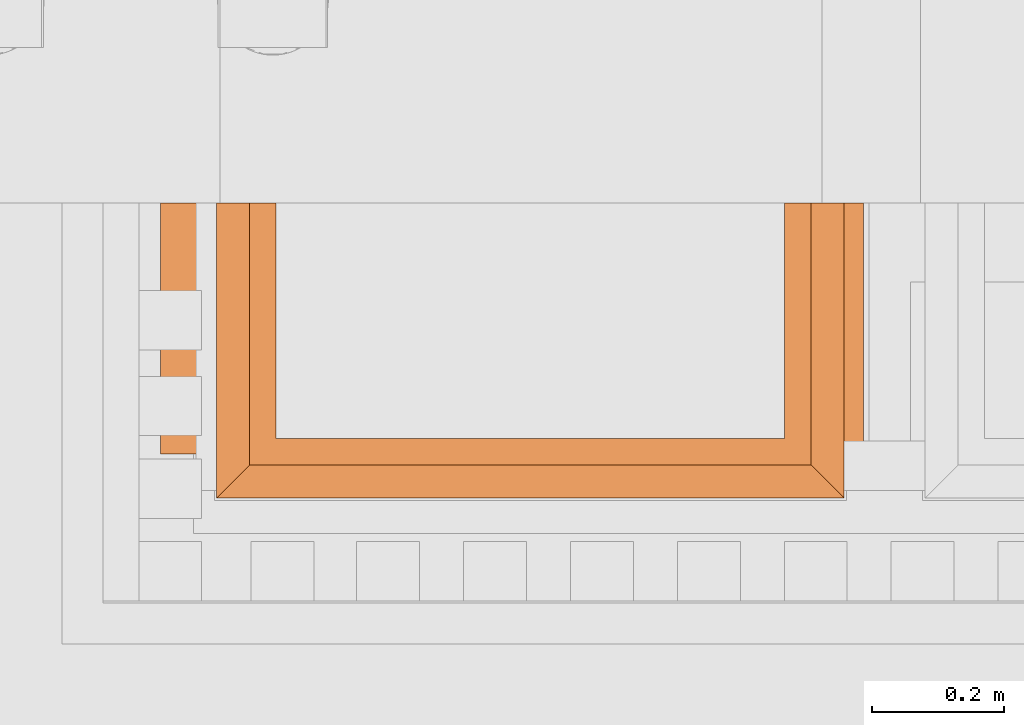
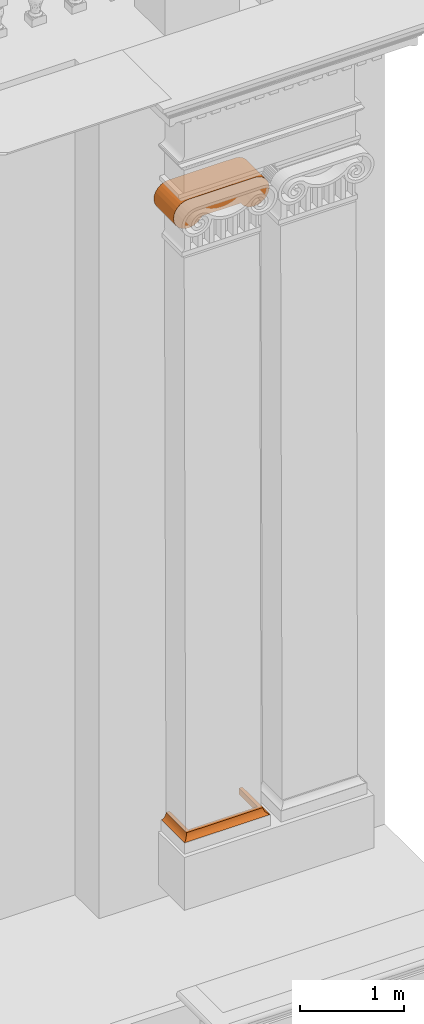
# One storey, part 41 of 44: 2 proxies.
"""IFC2X3 building model written with IfcOpenShell, lengths in metres."""

from ifc_helpers import new_model, entity, si_unit, converted_unit, derived_unit, direction, frame, origin, place, context, subcontext, project, spatial, faceted_brep, material, element, save


model = new_model("IFC2X3")

# Units and contexts
model_context = context("Model", 3, precision=1e-05, world=origin(), true_north=direction((6.12303176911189e-17, 1.0)))
body_context = subcontext(model_context, "Body", "Model", "MODEL_VIEW")
ifc_project = project(units=[si_unit("LENGTHUNIT", "METRE"), si_unit("AREAUNIT", "SQUARE_METRE"), si_unit("VOLUMEUNIT", "CUBIC_METRE"), converted_unit("PLANEANGLEUNIT", "DEGREE", entity("IfcRatioMeasure", 0.0174532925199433), si_unit("PLANEANGLEUNIT", "RADIAN"), dimensions=[0, 0, 0, 0, 0, 0, 0]), si_unit("MASSUNIT", "GRAM", prefix="KILO"), derived_unit("MASSDENSITYUNIT", [(si_unit("MASSUNIT", "GRAM", prefix="KILO"), 1), (si_unit("LENGTHUNIT", "METRE"), -3)]), si_unit("TIMEUNIT", "SECOND"), si_unit("FREQUENCYUNIT", "HERTZ"), si_unit("THERMODYNAMICTEMPERATUREUNIT", "DEGREE_CELSIUS"), derived_unit("THERMALTRANSMITTANCEUNIT", [(si_unit("MASSUNIT", "GRAM", prefix="KILO"), 1), (si_unit("THERMODYNAMICTEMPERATUREUNIT", "KELVIN"), -1), (si_unit("TIMEUNIT", "SECOND"), -3)]), derived_unit("VOLUMETRICFLOWRATEUNIT", [(si_unit("LENGTHUNIT", "METRE"), 3), (si_unit("TIMEUNIT", "SECOND"), -1)]), si_unit("ELECTRICCURRENTUNIT", "AMPERE"), si_unit("ELECTRICVOLTAGEUNIT", "VOLT"), si_unit("POWERUNIT", "WATT"), si_unit("FORCEUNIT", "NEWTON", prefix="KILO"), si_unit("ILLUMINANCEUNIT", "LUX"), si_unit("LUMINOUSFLUXUNIT", "LUMEN"), si_unit("LUMINOUSINTENSITYUNIT", "CANDELA"), derived_unit("USERDEFINED", [(si_unit("MASSUNIT", "GRAM", prefix="KILO"), -1), (si_unit("LENGTHUNIT", "METRE"), -2), (si_unit("TIMEUNIT", "SECOND"), 3), (si_unit("LUMINOUSFLUXUNIT", "LUMEN"), 1)]), derived_unit("LINEARVELOCITYUNIT", [(si_unit("LENGTHUNIT", "METRE"), 1), (si_unit("TIMEUNIT", "SECOND"), -1)]), si_unit("PRESSUREUNIT", "PASCAL"), derived_unit("USERDEFINED", [(si_unit("LENGTHUNIT", "METRE"), -2), (si_unit("MASSUNIT", "GRAM", prefix="KILO"), 1), (si_unit("TIMEUNIT", "SECOND"), -2)])], contexts=[model_context])

# Site, building, storey
site_placement = place(None, origin())
site = spatial("IfcSite", under=ifc_project, at=site_placement, Name="Default", CompositionType="ELEMENT")
building_placement = place(site_placement, origin())
building = spatial("IfcBuilding", under=site, at=building_placement, CompositionType="ELEMENT")
storey_placement = place(building_placement, origin())
storey = spatial("IfcBuildingStorey", under=building, at=storey_placement, Name="Livello 1", CompositionType="ELEMENT", Elevation=0.0)

# Proxies
ifc_material = material(Name="Travertino")
proxy_1_placement = place(storey_placement, frame((9.34571776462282, 0.883372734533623, 21.2883884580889)))
element("IfcBuildingElementProxy", 1, at=proxy_1_placement, inside=storey, material=ifc_material, Name="Stratigrafia", context=body_context, shape_type="Brep", body=[
    faceted_brep([(0.227068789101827, 0.13, 0.0156237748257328), (0.228992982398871, 0.13, 0.0157417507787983), (0.230920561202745, 0.13, 0.0157713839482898), (0.23276441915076, 0.13, 0.0157169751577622), (0.234604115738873, 0.13, 0.0155817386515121), (0.235377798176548, 0.13, 0.0155005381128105), (0.236149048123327, 0.13, 0.0154051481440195), (0.219471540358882, 0.13, 0.00918128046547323), (0.202228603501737, 0.13, 0.00475895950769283), (0.202441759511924, 0.13, 0.00495230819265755), (0.202656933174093, 0.13, 0.00514482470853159), (0.205538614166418, 0.13, 0.00748647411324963), (0.208615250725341, 0.13, 0.00956534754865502), (0.21130606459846, 0.13, 0.0110826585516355), (0.214100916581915, 0.13, 0.0123985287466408), (0.21684041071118, 0.13, 0.0134560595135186), (0.219647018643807, 0.13, 0.0143198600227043), (0.221437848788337, 0.13, 0.0147613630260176), (0.223246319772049, 0.13, 0.015123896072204), (0.225151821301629, 0.13, 0.0154176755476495), (0.202441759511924, 0.195, 0.00495230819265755), (0.202228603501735, 0.195, 0.00475895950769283), (0.219471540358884, 0.195, 0.00918128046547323), (0.236149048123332, 0.195, 0.0154051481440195), (0.235377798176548, 0.195, 0.0155005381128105), (0.234604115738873, 0.195, 0.0155817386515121), (0.23276441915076, 0.195, 0.0157169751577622), (0.230920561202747, 0.195, 0.0157713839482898), (0.228992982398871, 0.195, 0.0157417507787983), (0.227068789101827, 0.195, 0.0156237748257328), (0.225151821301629, 0.195, 0.0154176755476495), (0.223246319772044, 0.195, 0.015123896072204), (0.221437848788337, 0.195, 0.0147613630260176), (0.219647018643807, 0.195, 0.0143198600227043), (0.21684041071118, 0.195, 0.0134560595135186), (0.214100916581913, 0.195, 0.0123985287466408), (0.21130606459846, 0.195, 0.0110826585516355), (0.208615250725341, 0.195, 0.00956534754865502), (0.205538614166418, 0.195, 0.00748647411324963), (0.202656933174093, 0.195, 0.00514482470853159), (0.235311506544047, 0.14769119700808, 0.015508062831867), (0.234604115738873, 0.15122943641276, 0.0155817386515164), (0.235350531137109, 0.153479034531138, 0.0155036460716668), (0.235306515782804, 0.158497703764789, 0.0155086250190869), (0.23614904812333, 0.1625, 0.0154051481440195), (0.236149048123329, 0.1584375, 0.0154051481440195), (0.236149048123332, 0.154375, 0.0154051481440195), (0.236149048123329, 0.187923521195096, 0.0154051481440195), (0.235377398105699, 0.184385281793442, 0.0155005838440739), (0.235447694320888, 0.189692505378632, 0.0154924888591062), (0.235285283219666, 0.163523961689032, 0.0155110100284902), (0.234604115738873, 0.16747943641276, 0.0155817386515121), (0.235367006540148, 0.169772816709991, 0.0155017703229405), (0.234604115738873, 0.187923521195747, 0.0155817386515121), (0.236149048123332, 0.14625, 0.0154051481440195), (0.235377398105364, 0.140614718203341, 0.0155005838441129), (0.234604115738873, 0.144152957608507, 0.0155817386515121), (0.234604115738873, 0.137076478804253, 0.0155817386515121), (0.234604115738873, 0.182288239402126, 0.0155817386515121), (0.235392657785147, 0.17846167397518, 0.015498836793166), (0.234604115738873, 0.172066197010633, 0.0155817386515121), (0.236149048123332, 0.137076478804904, 0.0154051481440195), (0.235307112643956, 0.135307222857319, 0.0155085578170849), (0.23614904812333, 0.180847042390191, 0.0154051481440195), (0.234604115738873, 0.176652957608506, 0.0155817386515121), (0.234604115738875, 0.18084967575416, 0.0155817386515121), (0.236149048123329, 0.171673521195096, 0.0154051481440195), (0.234604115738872, 0.158305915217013, 0.0155817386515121), (0.234604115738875, 0.1625, 0.0155817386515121), (0.232764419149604, 0.151225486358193, 0.0157169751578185), (0.232651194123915, 0.1654432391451, 0.0157226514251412), (0.230920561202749, 0.158300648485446, 0.0157713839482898), (0.230920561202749, 0.144150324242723, 0.0157713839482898), (0.23276441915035, 0.181836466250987, 0.0157169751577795), (0.230920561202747, 0.180849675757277, 0.0157713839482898), (0.230920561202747, 0.1625, 0.0157713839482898), (0.22899298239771, 0.151224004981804, 0.015741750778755), (0.228865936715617, 0.166307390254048, 0.0157366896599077), (0.227068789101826, 0.158298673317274, 0.0156237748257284), (0.227068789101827, 0.144149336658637, 0.0156237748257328), (0.228992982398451, 0.181275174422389, 0.015741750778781), (0.227068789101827, 0.180850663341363, 0.0156237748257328), (0.227068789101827, 0.1625, 0.0156237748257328), (0.225151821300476, 0.151224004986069, 0.0154176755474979), (0.225025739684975, 0.16630961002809, 0.0154009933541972), (0.223246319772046, 0.15829867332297, 0.015123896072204), (0.223246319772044, 0.144149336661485, 0.015123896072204), (0.225151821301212, 0.181273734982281, 0.0154176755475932), (0.223246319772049, 0.180850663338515, 0.015123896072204), (0.223246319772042, 0.1625, 0.015123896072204), (0.221437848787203, 0.15122548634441, 0.014761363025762), (0.221327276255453, 0.165441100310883, 0.0147365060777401), (0.219647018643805, 0.158300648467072, 0.0143198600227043), (0.219647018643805, 0.144150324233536, 0.0143198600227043), (0.221437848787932, 0.181837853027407, 0.0147613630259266), (0.219647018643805, 0.180849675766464, 0.0143198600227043), (0.219647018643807, 0.1625, 0.0143198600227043), (0.217295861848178, 0.150768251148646, 0.0136109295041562), (0.216694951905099, 0.171325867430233, 0.0134053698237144), (0.214100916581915, 0.158305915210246, 0.0123985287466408), (0.214100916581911, 0.166683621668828, 0.0123985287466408), (0.211427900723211, 0.154345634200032, 0.0111453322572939), (0.210711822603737, 0.174546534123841, 0.0107697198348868), (0.208615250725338, 0.1625, 0.00956534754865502), (0.208615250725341, 0.166667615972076, 0.00956534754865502), (0.202656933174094, 0.158332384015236, 0.00514482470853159), (0.202656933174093, 0.16046875, 0.00514482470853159), (0.202656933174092, 0.1625, 0.00514482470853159), (0.202656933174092, 0.164790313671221, 0.00514482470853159), (0.202656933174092, 0.167080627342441, 0.00514482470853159), (0.202656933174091, 0.169370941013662, 0.00514482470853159), (0.202656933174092, 0.171661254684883, 0.00514482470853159), (0.202656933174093, 0.173951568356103, 0.00514482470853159), (0.202656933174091, 0.176241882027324, 0.00514482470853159), (0.202656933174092, 0.178532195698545, 0.00514482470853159), (0.202656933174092, 0.180822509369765, 0.00514482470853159), (0.202656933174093, 0.184366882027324, 0.00514482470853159), (0.202656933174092, 0.187911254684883, 0.00514482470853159), (0.202656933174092, 0.191455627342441, 0.00514482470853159), (0.205631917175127, 0.15726318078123, 0.00755549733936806), (0.202656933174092, 0.133544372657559, 0.00514482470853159), (0.202656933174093, 0.135834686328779, 0.00514482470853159), (0.202656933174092, 0.138125, 0.00514482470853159), (0.202656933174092, 0.14015625, 0.00514482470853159), (0.202656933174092, 0.1421875, 0.00514482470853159), (0.202656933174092, 0.14421875, 0.00514482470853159), (0.202656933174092, 0.14625, 0.00514482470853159), (0.202656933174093, 0.14828125, 0.00514482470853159), (0.202656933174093, 0.1503125, 0.00514482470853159), (0.202656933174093, 0.15234375, 0.00514482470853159), (0.202656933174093, 0.154375, 0.00514482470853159), (0.202656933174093, 0.15640625, 0.00514482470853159), (0.202435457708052, 0.141578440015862, 0.00494662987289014), (0.202442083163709, 0.139378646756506, 0.00495259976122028), (0.202452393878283, 0.179677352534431, 0.00496188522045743), (0.202452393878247, 0.17738703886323, 0.00496188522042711), (0.202228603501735, 0.176677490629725, 0.00475895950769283), (0.202228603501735, 0.17896780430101, 0.00475895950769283), (0.202228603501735, 0.181258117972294, 0.00475895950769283), (0.202228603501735, 0.172096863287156, 0.00475895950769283), (0.202228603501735, 0.174387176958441, 0.00475895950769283), (0.202452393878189, 0.172806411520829, 0.00496188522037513), (0.202439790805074, 0.159500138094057, 0.00495053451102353), (0.202228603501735, 0.15835498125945, 0.00475895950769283), (0.202228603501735, 0.160645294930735, 0.00475895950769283), (0.202228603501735, 0.169806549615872, 0.00475895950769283), (0.202461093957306, 0.170711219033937, 0.00496971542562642), (0.202433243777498, 0.168631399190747, 0.0049446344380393), (0.202424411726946, 0.19160860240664, 0.00493667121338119), (0.202438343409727, 0.132344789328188, 0.00494923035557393), (0.202228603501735, 0.133544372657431, 0.00475895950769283), (0.202442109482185, 0.134689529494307, 0.00495262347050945), (0.202457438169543, 0.189405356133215, 0.00496642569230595), (0.202228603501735, 0.190419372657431, 0.00475895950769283), (0.202460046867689, 0.147464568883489, 0.00496877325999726), (0.202432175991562, 0.150380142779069, 0.00494367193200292), (0.202444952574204, 0.157042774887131, 0.00495518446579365), (0.202441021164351, 0.145234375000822, 0.00495164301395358), (0.202228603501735, 0.147721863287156, 0.00475895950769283), (0.202433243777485, 0.164050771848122, 0.00494463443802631), (0.202228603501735, 0.193227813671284, 0.00475895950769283), (0.202228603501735, 0.162935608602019, 0.00475895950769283), (0.202431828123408, 0.161790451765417, 0.00494335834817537), (0.202228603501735, 0.165225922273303, 0.00475895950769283), (0.202228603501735, 0.167516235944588, 0.00475895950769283), (0.202431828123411, 0.166371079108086, 0.00494335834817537), (0.202228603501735, 0.154810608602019, 0.00475895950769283), (0.202451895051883, 0.181922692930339, 0.00496143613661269), (0.202450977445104, 0.175126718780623, 0.00496060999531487), (0.202458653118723, 0.136979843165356, 0.0049675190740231), (0.202228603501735, 0.185838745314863, 0.00475895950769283), (0.202435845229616, 0.186993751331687, 0.00494697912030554), (0.202426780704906, 0.184693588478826, 0.00493880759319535), (0.202452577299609, 0.154996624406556, 0.00496205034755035), (0.202228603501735, 0.151266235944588, 0.00475895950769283), (0.202431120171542, 0.152959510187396, 0.00494272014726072), (0.202228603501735, 0.183548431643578, 0.00475895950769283), (0.202228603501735, 0.188129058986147, 0.00475895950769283), (0.202228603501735, 0.140633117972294, 0.00475895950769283), (0.202228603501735, 0.137088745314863, 0.00475895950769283), (0.202228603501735, 0.144177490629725, 0.00475895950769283), (0.202228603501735, 0.149494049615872, 0.00475895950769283), (1.0616159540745, 0.0, 0.204508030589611), (1.04705822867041, 0.0, 0.245490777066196), (1.02245795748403, 0.0, 0.281356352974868), (0.989467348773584, 0.0, 0.309695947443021), (0.950302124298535, 0.0, 0.328606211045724), (0.907592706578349, 0.0, 0.336817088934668), (0.159155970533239, 0.0, 0.336817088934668), (0.116446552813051, 0.0, 0.328606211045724), (0.0772813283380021, 0.0, 0.309695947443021), (0.0442907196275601, 0.0, 0.281356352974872), (0.0196904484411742, 0.0, 0.245490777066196), (0.00513272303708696, 0.0, 0.204508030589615), (0.0015952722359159, 0.0, 0.161160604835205), (0.00931567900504, 0.0, 0.118359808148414), (0.0277754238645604, 0.0, 0.0789802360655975), (0.0557347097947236, 0.0, 0.0456667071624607), (0.0913157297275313, 0.0, 0.0206566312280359), (0.132128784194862, 0.0, 0.00562973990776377), (0.175432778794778, 0.0, 0.0015952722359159), (0.196876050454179, 0.0, 0.00520973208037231), (0.218319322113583, 0.0, 0.00882419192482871), (0.238113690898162, 0.0, 0.0178275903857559), (0.257908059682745, 0.0, 0.0268309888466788), (0.291540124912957, 0.0, 0.0544062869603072), (0.316956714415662, 0.0, 0.0896980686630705), (0.749791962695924, 0.0, 0.0896980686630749), (0.775208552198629, 0.0, 0.0544062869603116), (0.80884061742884, 0.0, 0.0268309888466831), (0.848429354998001, 0.0, 0.00882419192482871), (0.891315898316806, 0.0, 0.0015952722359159), (0.934619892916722, 0.0, 0.00562973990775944), (0.975432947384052, 0.0, 0.0206566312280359), (1.01101396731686, 0.0, 0.0456667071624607), (1.03897325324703, 0.0, 0.0789802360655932), (1.05743299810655, 0.0, 0.118359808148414), (1.06515340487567, 0.0, 0.161160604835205), (0.00513272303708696, 0.38, 0.204508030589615), (0.0196904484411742, 0.38, 0.245490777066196), (0.0442907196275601, 0.38, 0.281356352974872), (0.0772813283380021, 0.38, 0.309695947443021), (0.116446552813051, 0.38, 0.328606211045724), (0.159155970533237, 0.38, 0.336817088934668), (0.907592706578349, 0.38, 0.336817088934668), (0.950302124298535, 0.38, 0.328606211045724), (0.989467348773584, 0.38, 0.309695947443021), (1.02245795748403, 0.38, 0.281356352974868), (1.04705822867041, 0.38, 0.245490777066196), (1.0616159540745, 0.38, 0.204508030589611), (1.06515340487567, 0.38, 0.161160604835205), (1.05743299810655, 0.38, 0.118359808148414), (1.03897325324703, 0.38, 0.0789802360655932), (1.01101396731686, 0.38, 0.0456667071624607), (0.975432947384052, 0.38, 0.0206566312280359), (0.934619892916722, 0.38, 0.00562973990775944), (0.891315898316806, 0.38, 0.0015952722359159), (0.848429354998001, 0.38, 0.00882419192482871), (0.80884061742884, 0.38, 0.0268309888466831), (0.775208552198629, 0.38, 0.0544062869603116), (0.749791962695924, 0.38, 0.0896980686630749), (0.316956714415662, 0.38, 0.0896980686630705), (0.291540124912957, 0.38, 0.0544062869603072), (0.257908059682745, 0.38, 0.0268309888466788), (0.218319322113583, 0.38, 0.00882419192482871), (0.175432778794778, 0.38, 0.0015952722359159), (0.132128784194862, 0.38, 0.00562973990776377), (0.0913157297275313, 0.38, 0.0206566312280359), (0.0557347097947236, 0.38, 0.0456667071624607), (0.0277754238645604, 0.38, 0.0789802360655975), (0.00931567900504, 0.38, 0.118359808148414), (0.0015952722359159, 0.38, 0.161160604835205)], [[[0, 1, 2, 3, 4, 5, 6, 7, 8, 9, 10, 11, 12, 13, 14, 15, 16, 17, 18, 19]], [[20, 21, 22, 23, 24, 25, 26, 27, 28, 29, 30, 31, 32, 33, 34, 35, 36, 37, 38, 39]], [[40, 41, 42]], [[43, 44, 45, 46]], [[47, 48, 49]], [[50, 51, 52]], [[48, 53, 49]], [[40, 54, 55]], [[56, 55, 57]], [[58, 53, 48]], [[58, 48, 59]], [[51, 60, 52]], [[52, 44, 50]], [[55, 61, 62]], [[40, 42, 46]], [[49, 53, 25]], [[62, 61, 6]], [[63, 48, 47]], [[61, 55, 54]], [[49, 24, 23]], [[62, 5, 4]], [[63, 59, 48]], [[41, 40, 56]], [[59, 60, 64, 65, 58]], [[57, 55, 62]], [[59, 63, 66]], [[66, 44, 52]], [[59, 52, 60]], [[66, 52, 59]], [[50, 67, 68, 51]], [[56, 40, 55]], [[54, 40, 46]], [[44, 43, 50]], [[42, 41, 67]], [[67, 50, 43]], [[47, 49, 23]], [[25, 24, 49]], [[57, 62, 4]], [[6, 5, 62]], [[43, 42, 67]], [[46, 42, 43]], [[69, 70, 68]], [[71, 69, 3, 2, 72]], [[73, 74, 27, 26]], [[73, 26, 25, 53, 58, 65]], [[56, 57, 4, 3, 69, 68, 67, 41]], [[70, 73, 65]], [[71, 70, 69]], [[70, 65, 64, 60, 51, 68]], [[70, 71, 75, 74]], [[74, 73, 70]], [[76, 77, 75]], [[78, 76, 1, 0, 79]], [[80, 81, 29, 28]], [[80, 28, 27, 74]], [[72, 2, 1, 76, 75, 71]], [[77, 80, 74]], [[78, 77, 76]], [[75, 77, 74]], [[77, 78, 82, 81]], [[81, 80, 77]], [[83, 84, 82]], [[85, 83, 19, 18, 86]], [[87, 88, 31, 30]], [[87, 30, 29, 81]], [[79, 0, 19, 83, 82, 78]], [[84, 87, 81]], [[85, 84, 83]], [[82, 84, 81]], [[84, 85, 89, 88]], [[88, 87, 84]], [[90, 91, 89]], [[92, 90, 17, 16, 93]], [[94, 95, 33, 32]], [[94, 32, 31, 88]], [[86, 18, 17, 90, 89, 85]], [[91, 94, 88]], [[92, 91, 90]], [[89, 91, 88]], [[91, 92, 96, 95]], [[95, 94, 91]], [[97, 96, 92, 93, 16]], [[15, 97, 16]], [[97, 98, 96]], [[98, 99, 100, 35]], [[98, 34, 33]], [[97, 15, 14]], [[97, 14, 99]], [[34, 98, 35]], [[98, 97, 99]], [[98, 33, 95, 96]], [[13, 12, 101]], [[36, 102, 37]], [[102, 101, 103]], [[102, 103, 104, 37]], [[101, 100, 99, 14]], [[101, 12, 103]], [[102, 35, 100]], [[13, 101, 14]], [[101, 102, 100]], [[102, 36, 35]], [[38, 105, 106, 107, 108, 109, 110, 111, 112, 113, 114, 115, 116, 117, 118, 39]], [[119, 105, 38]], [[11, 119, 12]], [[119, 104, 103, 12]], [[119, 10, 120, 121, 122, 123, 124, 125, 126, 127, 128, 129, 130, 131, 105]], [[104, 119, 38]], [[119, 11, 10]], [[38, 37, 104]], [[132, 123, 133]], [[134, 135, 136, 137, 138]], [[139, 140, 141]], [[142, 143, 144]], [[145, 146, 147]], [[148, 20, 39]], [[9, 8, 149]], [[149, 150, 151]], [[152, 153, 148]], [[154, 155, 127]], [[156, 143, 142]], [[114, 113, 135, 134, 115]], [[112, 111, 141]], [[154, 157, 158]], [[107, 159, 108]], [[110, 109, 147]], [[160, 21, 20]], [[144, 161, 162]], [[163, 164, 165]], [[156, 166, 143]], [[167, 115, 134]], [[136, 168, 140]], [[151, 120, 149]], [[111, 110, 146]], [[106, 105, 142]], [[149, 120, 10]], [[121, 151, 169]], [[139, 141, 146]], [[170, 171, 172]], [[156, 131, 173]], [[106, 142, 162]], [[20, 148, 160]], [[162, 107, 106]], [[109, 108, 165]], [[155, 174, 175]], [[105, 156, 142]], [[173, 175, 166]], [[144, 162, 142]], [[162, 161, 159]], [[165, 164, 147]], [[159, 107, 162]], [[159, 165, 108]], [[135, 113, 168]], [[168, 136, 135]], [[168, 141, 140]], [[116, 167, 172]], [[159, 161, 163]], [[147, 164, 145]], [[163, 165, 159]], [[147, 109, 165]], [[141, 111, 146]], [[168, 113, 112]], [[112, 141, 168]], [[145, 139, 146]], [[116, 172, 171]], [[138, 167, 134]], [[167, 116, 115]], [[176, 172, 167]], [[170, 172, 176]], [[167, 138, 176]], [[117, 116, 171]], [[117, 171, 152]], [[171, 177, 152]], [[152, 118, 117]], [[118, 152, 148]], [[153, 152, 177]], [[171, 170, 177]], [[147, 146, 110]], [[39, 118, 148]], [[148, 153, 160]], [[133, 178, 132]], [[125, 124, 123, 132]], [[121, 120, 151]], [[169, 179, 133]], [[156, 105, 131]], [[132, 180, 157]], [[130, 173, 131]], [[169, 122, 121]], [[151, 150, 179]], [[150, 149, 8]], [[10, 9, 149]], [[122, 169, 133]], [[179, 169, 151]], [[178, 133, 179]], [[125, 157, 126]], [[132, 178, 180]], [[132, 157, 125]], [[126, 157, 154]], [[157, 180, 158]], [[128, 127, 155, 129]], [[158, 181, 154]], [[181, 155, 154]], [[155, 181, 174]], [[175, 129, 155]], [[130, 175, 173]], [[175, 174, 166]], [[127, 126, 154]], [[123, 122, 133]], [[175, 130, 129]], [[156, 173, 166]], [[182, 183, 184, 185, 186, 187, 188, 189, 190, 191, 192, 193, 194, 195, 196, 197, 198, 199, 200, 201, 202, 203, 204, 205, 206, 207, 208, 209, 210, 211, 212, 213, 214, 215, 216, 217]], [[218, 219, 220, 221, 222, 223, 224, 225, 226, 227, 228, 229, 230, 231, 232, 233, 234, 235, 236, 237, 238, 239, 240, 241, 242, 243, 244, 245, 246, 247, 248, 249, 250, 251]], [[190, 221, 220, 191]], [[188, 223, 222, 189]], [[221, 190, 189, 222]], [[191, 220, 219, 192]], [[250, 249, 196, 195]], [[193, 218, 251, 194]], [[194, 251, 250, 195]], [[219, 218, 193, 192]], [[196, 249, 248, 197]], [[248, 247, 198, 197]], [[245, 244, 21]], [[198, 247, 246, 199]], [[245, 200, 199, 246]], [[21, 160, 153, 177, 170, 176, 138, 137, 136, 140, 139, 145, 164, 163, 161, 144, 143, 166, 174, 181, 158, 180, 178, 179, 150, 8, 200, 245]], [[244, 22, 21]], [[204, 243, 242, 205]], [[244, 23, 22]], [[23, 244, 243]], [[204, 6, 61, 54, 46, 45, 44, 66, 63, 47, 23, 243]], [[8, 202, 201, 200]], [[242, 241, 206, 205]], [[8, 7, 202]], [[6, 204, 203, 202]], [[6, 202, 7]], [[207, 206, 241, 240]], [[209, 238, 237, 210]], [[208, 239, 238, 209]], [[210, 237, 236, 211]], [[234, 233, 214, 213]], [[212, 235, 234, 213]], [[211, 236, 235, 212]], [[214, 233, 232, 215]], [[240, 239, 208, 207]], [[217, 230, 229, 182]], [[216, 231, 230, 217]], [[182, 229, 228, 183]], [[226, 225, 186, 185]], [[184, 227, 226, 185]], [[183, 228, 227, 184]], [[186, 225, 224, 187]], [[215, 232, 231, 216]], [[188, 187, 224, 223]]]),
])
proxy_2_placement = place(storey_placement, frame((9.43070227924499, 0.815415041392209, 14.1322889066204)))
element("IfcBuildingElementProxy", 2, at=proxy_2_placement, inside=storey, Name="Stratigrafia", context=body_context, shape_type="Brep", body=[
    faceted_brep([(0.860981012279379, 0.447957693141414, 0.0015952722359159), (0.860981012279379, 0.447957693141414, 0.0725246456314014), (0.900981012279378, 0.447957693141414, 0.0725246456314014), (0.901984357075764, 0.447957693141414, 0.057057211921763), (0.906320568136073, 0.447957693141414, 0.0421761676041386), (0.913782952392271, 0.447957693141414, 0.028590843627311), (0.924015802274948, 0.447957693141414, 0.0169488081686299), (0.9365313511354, 0.447957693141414, 0.00780499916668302), (0.950733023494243, 0.447957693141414, 0.0015952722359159), (0.00159527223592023, 0.447957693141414, 0.0015952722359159), (0.0157969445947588, 0.447957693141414, 0.00780499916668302), (0.0283124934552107, 0.447957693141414, 0.0169488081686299), (0.038545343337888, 0.447957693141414, 0.028590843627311), (0.0460077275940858, 0.447957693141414, 0.0421761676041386), (0.0503439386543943, 0.447957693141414, 0.057057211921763), (0.0513472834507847, 0.447957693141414, 0.0725246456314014), (0.0913472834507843, 0.447957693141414, 0.0725246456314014), (0.0913472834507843, 0.447957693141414, 0.0015952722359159), (0.901984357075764, 0.0503439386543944, 0.057057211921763), (0.906320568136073, 0.0460077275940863, 0.0421761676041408), (0.913782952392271, 0.0385453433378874, 0.028590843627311), (0.900981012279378, 0.0513472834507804, 0.0725246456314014), (0.924015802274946, 0.0283124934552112, 0.0169488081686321), (0.9365313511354, 0.0157969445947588, 0.00780499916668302), (0.950733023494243, 0.00159527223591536, 0.0015952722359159), (0.590003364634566, 0.00159527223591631, 0.0015952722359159), (0.00159527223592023, 0.00159527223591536, 0.0015952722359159), (0.0913472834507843, 0.0913472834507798, 0.0015952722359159), (0.860981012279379, 0.0913472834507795, 0.0015952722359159), (0.860981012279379, 0.0913472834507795, 0.0725246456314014), (0.0513472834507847, 0.0513472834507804, 0.0725246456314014), (0.312572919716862, 0.0513472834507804, 0.0725246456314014), (0.0913472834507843, 0.0913472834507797, 0.0725246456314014), (0.572423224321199, 0.0334274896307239, 0.0221280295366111), (0.0157969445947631, 0.0157969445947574, 0.00780499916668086), (0.476164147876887, 0.0424788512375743, 0.0348723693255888), (0.0503439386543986, 0.0503439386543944, 0.057057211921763), (0.476164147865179, 0.0502370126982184, 0.0564642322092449), (0.476164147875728, 0.0218065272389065, 0.0116734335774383), (0.0460077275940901, 0.0460077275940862, 0.0421761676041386), (0.028312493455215, 0.0283124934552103, 0.0169488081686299), (0.0385453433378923, 0.0385453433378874, 0.028590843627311)], [[[0, 1, 2, 3, 4, 5, 6, 7, 8]], [[9, 10, 11, 12, 13, 14, 15, 16, 17]], [[4, 3, 18, 19]], [[5, 4, 19, 20]], [[21, 18, 3, 2]], [[7, 6, 22, 23]], [[8, 7, 23, 24]], [[6, 5, 20, 22]], [[0, 8, 24, 25, 26, 9, 17, 27, 28]], [[1, 0, 28, 29]], [[16, 15, 30, 31, 21, 2, 1, 29, 32]], [[33, 22, 20]], [[25, 34, 26]], [[23, 25, 24]], [[19, 35, 20]], [[31, 36, 37]], [[31, 37, 21]], [[23, 38, 25]], [[18, 21, 37]], [[39, 37, 36]], [[38, 40, 34]], [[18, 37, 19]], [[37, 35, 19]], [[35, 37, 39]], [[35, 33, 20]], [[38, 34, 25]], [[36, 31, 30]], [[41, 40, 33]], [[38, 33, 40]], [[41, 33, 35]], [[38, 23, 22]], [[35, 39, 41]], [[38, 22, 33]], [[29, 28, 27, 32]], [[12, 41, 39, 13]], [[13, 39, 36, 14]], [[14, 36, 30, 15]], [[9, 26, 34, 10]], [[10, 34, 40, 11]], [[12, 11, 40, 41]], [[32, 27, 17, 16]]]),
])

save(model, "model.ifc")
